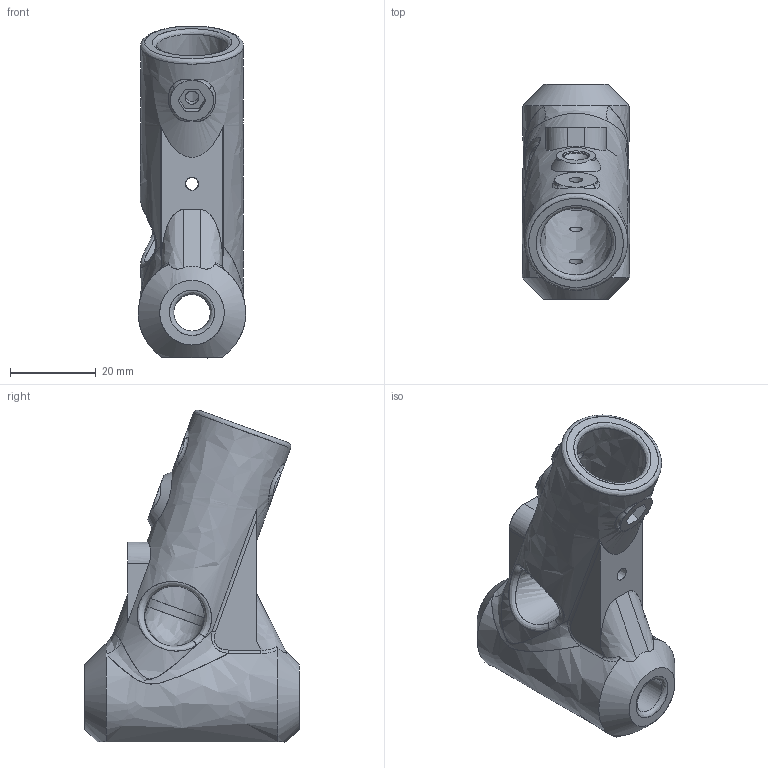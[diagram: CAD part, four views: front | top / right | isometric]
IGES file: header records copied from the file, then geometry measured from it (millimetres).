
Global section: file name: C:\Users\gehrichcr\Documents\1 Drive Backup\Practice\Inspire\V1.5\IGES\Boom Joint 20Deg R.igs; native system: NX V8.5; preprocessor: SIEMENS PLM Software NX 8.5; date: 20150608.120658; units: millimetre
Bounding box: 25 x 50 x 77.22 mm (x, y, z)
Surface area: 12684.4 mm2 (no closed solid volume)
Topology: 0 solids, 0 shells, 81 faces, 686 edges, 656 vertices
Faces by surface type: bspline 81
